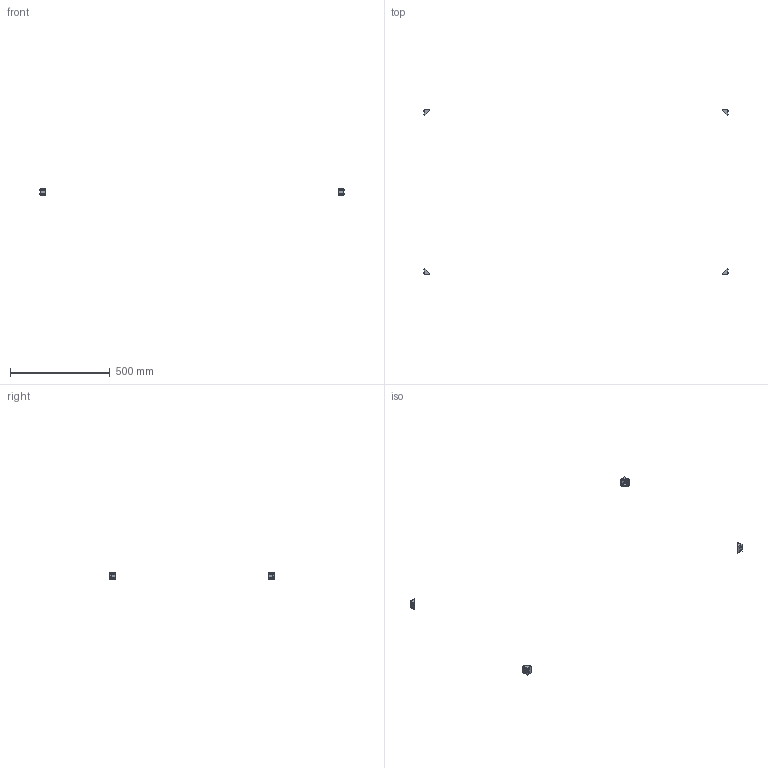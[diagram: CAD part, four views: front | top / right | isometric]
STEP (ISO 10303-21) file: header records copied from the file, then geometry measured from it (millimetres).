
FILE_DESCRIPTION(/* description */ (''),/* implementation_level */ '2;1');
FILE_NAME(/* name */ 'FR90D7~1',/* time_stamp */ '2014-02-14T19:35:28+01:00',/* author */ (''),/* organization */ (''),/* preprocessor_version */ 'ST-DEVELOPER v14',/* originating_system */ '',/* authorisation */ '');
FILE_SCHEMA (('AUTOMOTIVE_DESIGN'));
Length unit declared in the file: millimetre
Products named in the file (2): Document; angle bracket, semi, double
Assembly tree (2 placements, depth 2):
  Document
    angle bracket, semi, double  x2
Bounding box: 1526 x 832 x 40 mm (x, y, z)
Volume: 42810.4 mm3; surface area: 27575.1 mm2
Topology: 4 solids, 4 shells, 484 faces, 1356 edges, 904 vertices
Faces by surface type: plane 320, bspline 164
Entity records: 23538 total; most frequent: CARTESIAN_POINT 10643, B_SPLINE_CURVE_WITH_KNOTS 2073, ORIENTED_EDGE 2034, PCURVE 2034, DEFINITIONAL_REPRESENTATION 2034, SURFACE_CURVE 1017, EDGE_CURVE 1017, VERTEX_POINT 678
